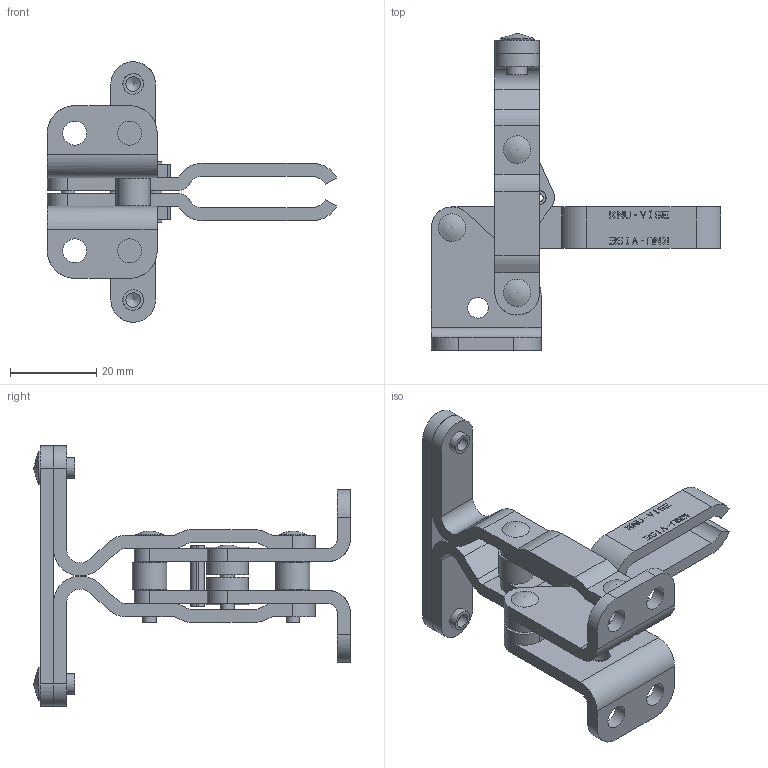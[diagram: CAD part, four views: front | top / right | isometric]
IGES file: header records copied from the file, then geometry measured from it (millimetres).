
Global section: file name: T-220; native system: Autodesk RealDWG; preprocessor: Autodesk Translation Framework DWG producer (atf_dwg_producer); author: Nick; organization: unknown; date: 20150901.170536; units: inch
Bounding box: 66.95 x 73.35 x 60.29 mm (x, y, z)
Volume: 18693.2 mm3; surface area: 18376.2 mm2
Topology: 18 solids, 18 shells, 606 faces, 1654 edges, 1118 vertices
Faces by surface type: bspline 606
